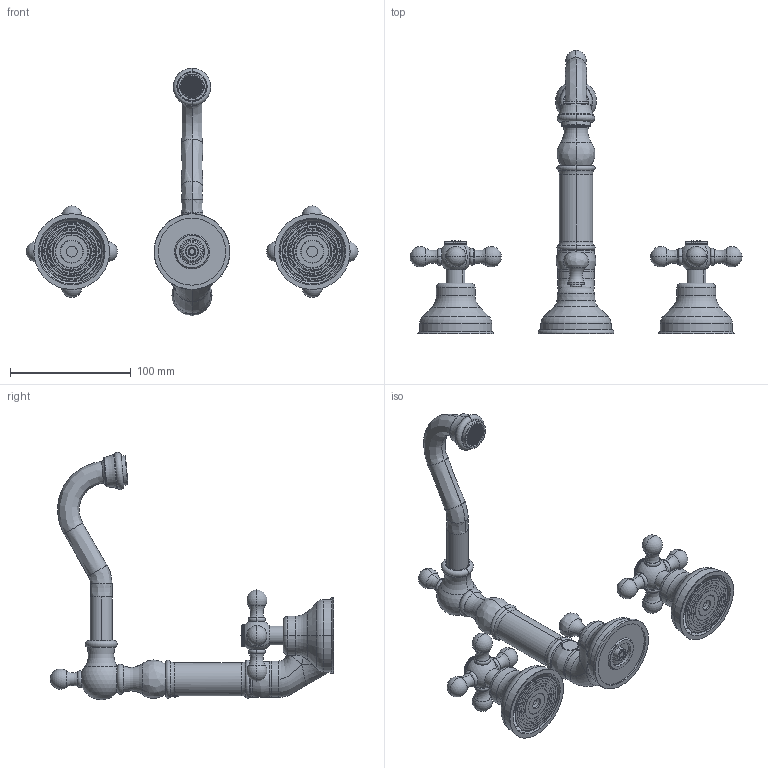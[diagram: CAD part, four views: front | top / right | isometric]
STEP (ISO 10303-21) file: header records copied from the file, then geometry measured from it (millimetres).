
FILE_DESCRIPTION((''),'2;1');
FILE_NAME('21868_SW0001','2026-05-22T08:29:10',('carloff'),(''),'CREO PARAMETRIC BY PTC INC, 2022014','CREO PARAMETRIC BY PTC INC, 2022014','');
FILE_SCHEMA(('CONFIG_CONTROL_DESIGN'));
Length unit declared in the file: millimetre
Products named in the file (1): 21868_SW0001
Bounding box: 274.4 x 234.25 x 204.52 mm (x, y, z)
Volume: 212394.8 mm3; surface area: 163259.4 mm2
Topology: 5 solids, 9 shells, 4182 faces, 13782 edges, 7780 vertices
Faces by surface type: plane 3081, cylinder 471, cone 362, torus 174, bspline 60, sphere 34
Entity records: 174952 total; most frequent: CARTESIAN_POINT 54631, ORIENTED_EDGE 27464, DIRECTION 23562, EDGE_CURVE 13732, VECTOR 10242, LINE 10242, VERTEX_POINT 7781, AXIS2_PLACEMENT_3D 6660
